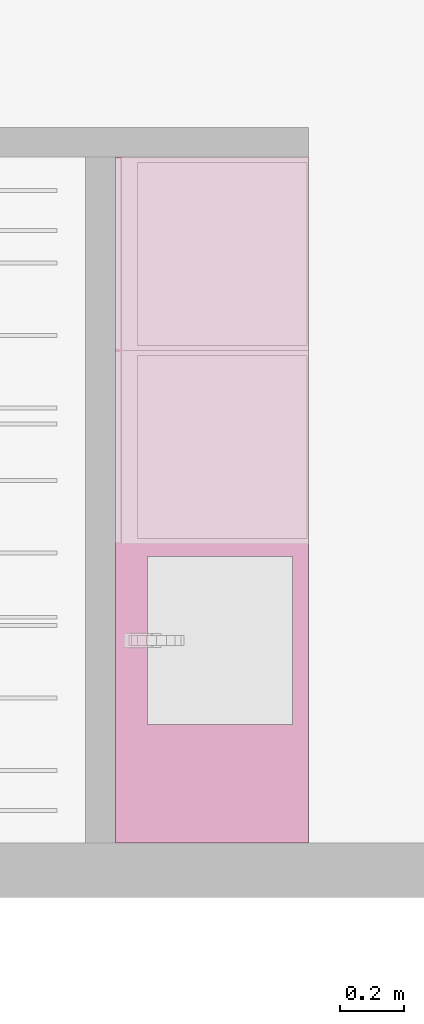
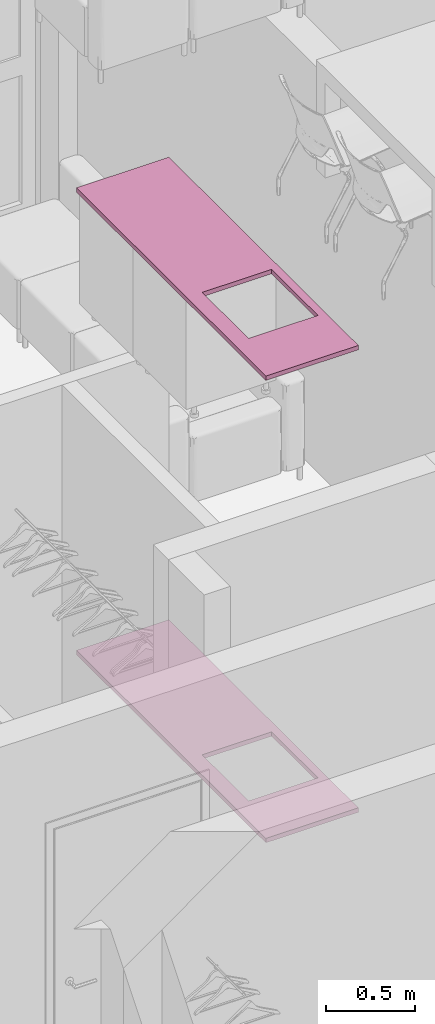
# One storey, part 73 of 125: 2 furnishings.
"""IFC2X3 building model written with IfcOpenShell, lengths in millimetres."""

from ifc_helpers import new_model, entity, si_unit, converted_unit, direction, frame, origin, place, context, subcontext, project, spatial, polyline, outline, extrude, source, transform, mapped, material, type_object, type_shapes, element, save


model = new_model("IFC2X3")

# Units and contexts
model_context = context("Model", 3, precision=0.01, world=origin(), true_north=direction((6.123233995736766e-17, 1.0)))
plan_context = context("Plan", 3, precision=0.01, world=origin(), true_north=direction((6.123233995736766e-17, 1.0)))
body_context = subcontext(model_context, "Body", "Model", "MODEL_VIEW")
ifc_project = project(units=[si_unit("LENGTHUNIT", "METRE", prefix="MILLI"), converted_unit("PLANEANGLEUNIT", "DEGREE", entity("IfcPlaneAngleMeasure", 0.017453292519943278), si_unit("PLANEANGLEUNIT", "RADIAN"), dimensions=[0, 0, 0, 0, 0, 0, 0]), si_unit("AREAUNIT", "SQUARE_METRE")], contexts=[model_context, plan_context])

# Site, building, storey, space
site_placement = place(None, origin())
site = spatial("IfcSite", under=ifc_project, at=site_placement, Name="Default", CompositionType="ELEMENT")
building_placement = place(site_placement, origin())
building = spatial("IfcBuilding", under=site, at=building_placement, CompositionType="ELEMENT")
storey_placement = place(building_placement, frame((0.0, 0.0, 3125.0)))
storey = spatial("IfcBuildingStorey", under=building, at=storey_placement, Name="2K", CompositionType="ELEMENT", Elevation=3125.0)
space_placement = place(storey_placement, origin())
space = spatial("IfcSpace", under=storey, at=space_placement, Name="2-2.2", CompositionType="ELEMENT", InteriorOrExteriorSpace="INTERNAL")

# Furnishings
ifc_material = material(Name="<Unnamed>")
furniture_type_1 = type_object("IfcFurnitureType", Name="HR_Casework_Work-surface_Generic_Rectangular_v1:Default", AssemblyPlace="NOTDEFINED", material=ifc_material)
shared_shape_1 = source(origin(), body_context, "Body", "SweptSolid", [
    extrude(outline(polyline([(-1064.0, -300.0), (1064.0, -300.0), (1064.0, 300.0), (-1064.0, 300.0), (-1064.0, -300.0)]), holes=[polyline([(-696.0, -250.0), (-696.0, 200.0), (-176.0, 200.0), (-176.0, -250.0), (-696.0, -250.0)])]), frame((7550.0, 9674.0, 870.0), z_axis=(0.0, 0.0, 1.0), x_axis=(0.0, 1.0, 0.0)), (0.0, 0.0, 1.0), 29.999999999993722),
])
type_shapes(furniture_type_1, [shared_shape_1])
furnishing_1_placement = place(space_placement, origin())
element("IfcFurnishingElement", 1, at=furnishing_1_placement, inside=space, type_object=furniture_type_1, material=ifc_material, Name="HR_Casework_Work-surface_Generic_Rectangular_v1:Default", ObjectType="HR_Casework_Work-surface_Generic_Rectangular_v1:Default", context=body_context, shape_type="MappedRepresentation", body=[
    mapped(shared_shape_1, transform((0.0, 0.0, 0.0), scale=1.0)),
])
furniture_type_2 = type_object("IfcFurnitureType", Name="HR_Casework_Work-surface_Generic_Rectangular_v1:Default", AssemblyPlace="NOTDEFINED", material=ifc_material)
shared_shape_2 = source(origin(), body_context, "Body", "SweptSolid", [
    extrude(outline(polyline([(-1064.0, -300.0), (1064.0, -300.0), (1064.0, 300.0), (-1064.0, 300.0), (-1064.0, -300.0)]), holes=[polyline([(-696.0, -250.0), (-696.0, 200.0), (-176.0, 200.0), (-176.0, -250.0), (-696.0, -250.0)])]), frame((7550.0, 9674.0, 870.0), z_axis=(0.0, 0.0, 1.0), x_axis=(0.0, 1.0, 0.0)), (0.0, 0.0, 1.0), 29.999999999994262),
])
type_shapes(furniture_type_2, [shared_shape_2])
furnishing_2_placement = place(space_placement, frame((0.0, 0.0, 3170.0)))
element("IfcFurnishingElement", 2, at=furnishing_2_placement, inside=space, type_object=furniture_type_2, material=ifc_material, Name="HR_Casework_Work-surface_Generic_Rectangular_v1:Default", ObjectType="HR_Casework_Work-surface_Generic_Rectangular_v1:Default", context=body_context, shape_type="MappedRepresentation", body=[
    mapped(shared_shape_2, transform((0.0, 0.0, 0.0), scale=1.0)),
])

save(model, "model.ifc")
